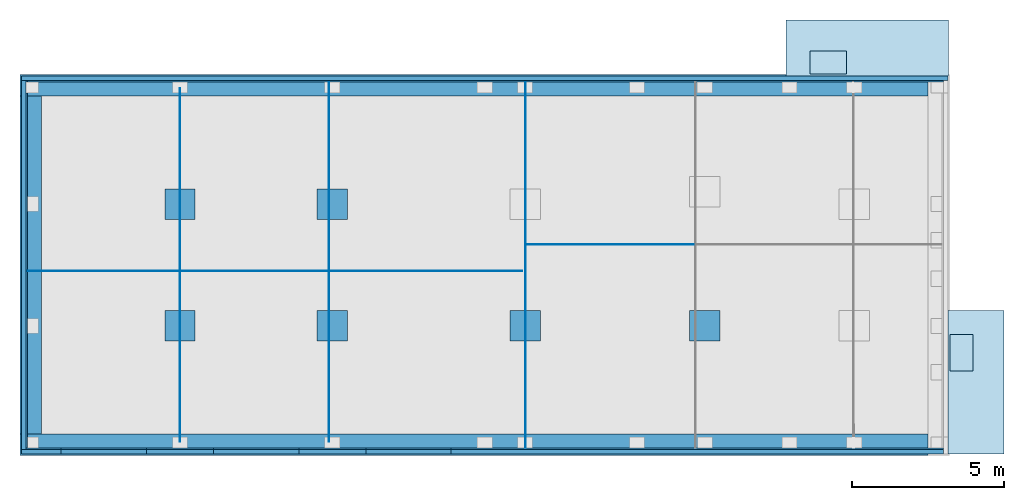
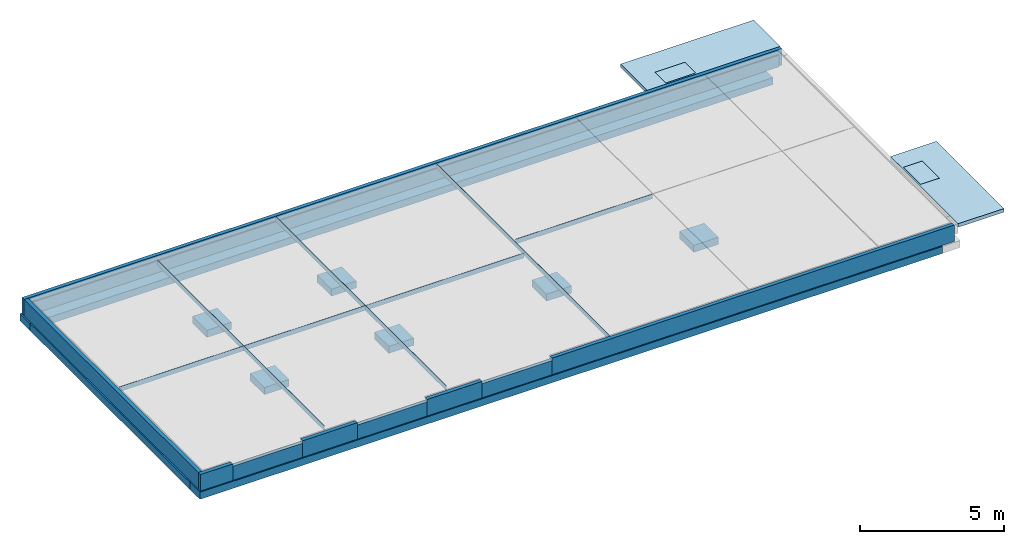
# One storey, part 1 of 3: 25 walls, 4 slabs, 2 openings.
"""IFC2X3 building model written with IfcOpenShell, lengths in millimetres."""

from ifc_helpers import new_model, entity, si_unit, converted_unit, frame, frame_2d, origin, origin_with_axes, place, context, subcontext, project, spatial, polyline, rectangle, outline, extrude, clip, bounded_halfspace, material, layer, layer_set, layer_usage, element, save


model = new_model("IFC2X3")

# Units and contexts
model_context = context("Model", 3, precision=1e-05, world=origin())
plan_context = context("Plan", 3, precision=1e-05, world=origin())
body_context = subcontext(model_context, "Body", "Model", "MODEL_VIEW")
ifc_project = project(units=[si_unit("LENGTHUNIT", "METRE", prefix="MILLI"), converted_unit("PLANEANGLEUNIT", "DEGREE", entity("IfcPlaneAngleMeasure", 0.0174532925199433), si_unit("PLANEANGLEUNIT", "RADIAN"), dimensions=[0, 0, 0, 0, 0, 0, 0]), si_unit("AREAUNIT", "SQUARE_METRE"), si_unit("VOLUMEUNIT", "CUBIC_METRE")], contexts=[model_context, plan_context])

# Building, storey
building_placement = place(None, origin())
building = spatial("IfcBuilding", under=ifc_project, at=building_placement, Name="HEKF Administrasjonbygg", CompositionType="ELEMENT")
storey_placement = place(building_placement, frame((0.0, 0.0, 6300.0), z_axis=(0.0, 0.0, 1.0), x_axis=(1.0, 0.0, 0.0)))
storey = spatial("IfcBuildingStorey", under=building, at=storey_placement, Name="Konstruksjoner i grunnen", CompositionType="ELEMENT", Elevation=6300.0)

# Slab, opening
ifc_material_1 = material(Name="Betong")
ifc_layer_1 = layer(ifc_material_1, 150.0)
ifc_layer_set_1 = layer_set([ifc_layer_1])
ifc_layer_usage_1 = layer_usage(ifc_layer_set_1, "AXIS3", "POSITIVE", 0.0)
slab_1_placement = place(storey_placement, frame((30200.0, -12200.0, 50.0), z_axis=(0.0, 0.0, 1.0), x_axis=(1.0, 0.0, 0.0)))
slab_1 = element("IfcSlab", 1, at=slab_1_placement, inside=storey, material=ifc_layer_usage_1, PredefinedType="FLOOR", context=body_context, shape_type="SweptSolid", body=[
    extrude(outline(polyline([(0.0, 0.0), (1840.0, 0.0), (1840.0, 4700.000000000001), (0.0, 4700.000000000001), (0.0, 0.0)]), holes=[polyline([(815.0, 2714.39229740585), (65.0, 2714.39229740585), (65.0, 3914.39229740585), (815.0, 3914.39229740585), (815.0, 2714.39229740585)])]), origin_with_axes(), (0.0, 0.0, 1.0), 150.0),
])
opening_1_placement = place(slab_1_placement, frame((65.0, 2714.39229740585, 0.0), z_axis=(0.0, 0.0, 1.0), x_axis=(1.0, 0.0, 0.0)))
element("IfcOpeningElement", 2, at=opening_1_placement, cuts=slab_1, Name="Slab Opening", ObjectType="Opening", context=body_context, shape_type="SweptSolid", body=[
    extrude(rectangle(XDim=750.0, YDim=1200.0, at=frame_2d((375.0, 600.0), x_axis=(1.0, 0.0))), origin_with_axes(), (0.0, 0.0, 1.0), 150.0),
])

ifc_material_2 = material(Name="Betong")
ifc_layer_2 = layer(ifc_material_2, 150.0)
ifc_layer_set_2 = layer_set([ifc_layer_2])
ifc_layer_usage_2 = layer_usage(ifc_layer_set_2, "AXIS3", "POSITIVE", 0.0)
slab_2_placement = place(storey_placement, frame((24882.90598115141, 199.9999999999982, 50.0), z_axis=(0.0, 0.0, 1.0), x_axis=(1.0, 0.0, 0.0)))
slab_2 = element("IfcSlab", 3, at=slab_2_placement, inside=storey, material=ifc_layer_usage_2, PredefinedType="FLOOR", context=body_context, shape_type="SweptSolid", body=[
    extrude(outline(polyline([(5336.094018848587, 0.0), (5336.094018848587, 1840.0), (0.0, 1840.0), (0.0, 1.13686837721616e-13), (5336.094018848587, 0.0)]), holes=[polyline([(1985.607702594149, 815.0000000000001), (1985.607702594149, 65.00000000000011), (785.6077025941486, 65.00000000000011), (785.6077025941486, 815.0000000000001), (1985.607702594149, 815.0000000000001)])]), origin_with_axes(), (0.0, 0.0, 1.0), 150.0),
])
opening_2_placement = place(slab_2_placement, frame((1985.607702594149, 65.00000000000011, 0.0), z_axis=(0.0, 0.0, 1.0), x_axis=(1.0, 0.0, 0.0)))
element("IfcOpeningElement", 4, at=opening_2_placement, cuts=slab_2, Name="Slab Opening", ObjectType="Opening", context=body_context, shape_type="SweptSolid", body=[
    extrude(rectangle(XDim=750.0, YDim=1200.0, at=frame_2d((-600.0, 375.0), x_axis=(0.0, 1.0))), origin_with_axes(), (0.0, 0.0, 1.0), 150.0),
])

# Slabs
ifc_material_3 = material(Name="Skraperist")
ifc_layer_3 = layer(ifc_material_3, 50.0)
ifc_layer_set_3 = layer_set([ifc_layer_3])
ifc_layer_usage_3 = layer_usage(ifc_layer_set_3, "AXIS3", "POSITIVE", 0.0)
slab_3_placement = place(storey_placement, frame((30265.0, -9485.607702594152, 150.0), z_axis=(0.0, 0.0, 1.0), x_axis=(1.0, 0.0, 0.0)))
element("IfcSlab", 5, at=slab_3_placement, inside=storey, material=ifc_layer_usage_3, PredefinedType="FLOOR", context=body_context, shape_type="SweptSolid", body=[
    extrude(rectangle(XDim=750.0, YDim=1200.0, at=frame_2d((375.0, 600.0), x_axis=(1.0, 0.0))), origin_with_axes(), (0.0, 0.0, 1.0), 50.0),
])
ifc_material_4 = material(Name="Skraperist")
ifc_layer_4 = layer(ifc_material_4, 50.0)
ifc_layer_set_4 = layer_set([ifc_layer_4])
ifc_layer_usage_4 = layer_usage(ifc_layer_set_4, "AXIS3", "POSITIVE", 0.0)
slab_4_placement = place(storey_placement, frame((26868.51368374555, 264.9999999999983, 150.0), z_axis=(0.0, 0.0, 1.0), x_axis=(1.0, 0.0, 0.0)))
element("IfcSlab", 6, at=slab_4_placement, inside=storey, material=ifc_layer_usage_4, PredefinedType="FLOOR", context=body_context, shape_type="SweptSolid", body=[
    extrude(rectangle(XDim=750.0, YDim=1200.0, at=frame_2d((-600.0, 375.0), x_axis=(0.0, 1.0))), origin_with_axes(), (0.0, 0.0, 1.0), 50.0),
])

# Walls
ifc_material_5 = material(Name="Rissanviser")
ifc_layer_5 = layer(ifc_material_5, 15.0)
ifc_layer_set_5 = layer_set([ifc_layer_5])
ifc_layer_usage_5 = layer_usage(ifc_layer_set_5, "AXIS2", "POSITIVE", -7.5)
wall_1_placement = place(storey_placement, frame((4999.999999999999, -200.0, 0.0), z_axis=(0.0, 0.0, 1.0), x_axis=(7.840471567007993e-17, -1.0, 0.0)))
element("IfcWallStandardCase", 7, at=wall_1_placement, inside=storey, material=ifc_layer_usage_5, context=body_context, shape_type="SweptSolid", body=[
    extrude(rectangle(XDim=11600.00000000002, YDim=15.0, at=frame_2d((5800.000000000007, 7.5), x_axis=(1.0, 0.0))), origin_with_axes(), (0.0, 0.0, 1.0), 200.0),
])
ifc_material_6 = material(Name="Rissanviser")
ifc_layer_6 = layer(ifc_material_6, 15.0)
ifc_layer_set_6 = layer_set([ifc_layer_6])
ifc_layer_usage_6 = layer_usage(ifc_layer_set_6, "AXIS2", "POSITIVE", -7.5)
wall_2_placement = place(storey_placement, frame((16323.6597783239, 0.0, 0.0), z_axis=(0.0, 0.0, 1.0), x_axis=(0.0, -1.0, 0.0)))
element("IfcWallStandardCase", 8, at=wall_2_placement, inside=storey, material=ifc_layer_usage_6, context=body_context, shape_type="SweptSolid", body=[
    extrude(rectangle(XDim=12000.0, YDim=15.0, at=frame_2d((6000.0, 7.5), x_axis=(1.0, 0.0))), origin_with_axes(), (0.0, 0.0, 1.0), 200.0),
])
ifc_material_7 = material(Name="Rissanviser")
ifc_layer_7 = layer(ifc_material_7, 22.63791763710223)
ifc_layer_set_7 = layer_set([ifc_layer_7])
ifc_layer_usage_7 = layer_usage(ifc_layer_set_7, "AXIS2", "POSITIVE", -7.5)
wall_3_placement = place(storey_placement, frame((9883.722963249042, 2.273736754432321e-13, 0.0), z_axis=(0.0, 0.0, 1.0), x_axis=(-0.0006469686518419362, -0.9999997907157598, 0.0)))
element("IfcWallStandardCase", 9, at=wall_3_placement, inside=storey, material=ifc_layer_usage_7, context=body_context, shape_type="SweptSolid", body=[
    extrude(outline(polyline([(0.0, 0.0), (6182.679776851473, 0.0), (6199.679772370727, 0.01242499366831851), (11805.70210955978, 7.637920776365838), (11805.69240503, 22.63791763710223), (6197.670069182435, 15.00970139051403), (6182.670072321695, 14.9999968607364), (-0.009704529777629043, 14.9999968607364), (0.0, 0.0)])), origin_with_axes(), (0.0, 0.0, 1.0), 200.0),
])
ifc_material_8 = material(Name="Rissanviser")
ifc_layer_8 = layer(ifc_material_8, 15.00000000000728)
ifc_layer_set_8 = layer_set([ifc_layer_8])
ifc_layer_usage_8 = layer_usage(ifc_layer_set_8, "AXIS2", "POSITIVE", -7.5)
wall_4_placement = place(storey_placement, frame((1.091393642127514e-11, -6199.678482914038, 0.0), z_axis=(0.0, 0.0, 1.0), x_axis=(1.0, 0.0, 0.0)))
element("IfcWallStandardCase", 10, at=wall_4_placement, inside=storey, material=ifc_layer_usage_8, context=body_context, shape_type="SweptSolid", body=[
    extrude(outline(polyline([(9894.724389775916, 0.0), (16236.99999999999, 0.0), (16236.99999999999, 15.00000000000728), (9894.72296324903, 15.00000000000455), (9894.724389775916, 0.0)])), origin_with_axes(), (0.0, 0.0, 1.0), 200.0),
])
ifc_material_9 = material(Name="Rissanviser")
ifc_layer_9 = layer(ifc_material_9, 15.00000000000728)
ifc_layer_set_9 = layer_set([ifc_layer_9])
ifc_layer_usage_9 = layer_usage(ifc_layer_set_9, "AXIS2", "POSITIVE", -7.5)
wall_5_placement = place(storey_placement, frame((1.091393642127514e-11, -6199.678482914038, 0.0), z_axis=(0.0, 0.0, 1.0), x_axis=(1.0, 0.0, 0.0)))
element("IfcWallStandardCase", 11, at=wall_5_placement, inside=storey, material=ifc_layer_usage_9, context=body_context, shape_type="SweptSolid", body=[
    extrude(outline(polyline([(0.0, 0.0), (4999.999999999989, 0.0), (4999.999999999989, 15.00000000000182), (0.0, 15.0), (0.0, 0.0)])), origin_with_axes(), (0.0, 0.0, 1.0), 200.0),
])
ifc_material_10 = material(Name="Rissanviser")
ifc_layer_10 = layer(ifc_material_10, 15.00000000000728)
ifc_layer_set_10 = layer_set([ifc_layer_10])
ifc_layer_usage_10 = layer_usage(ifc_layer_set_10, "AXIS2", "POSITIVE", -7.5)
wall_6_placement = place(storey_placement, frame((1.091393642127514e-11, -6199.678482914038, 0.0), z_axis=(0.0, 0.0, 1.0), x_axis=(1.0, 0.0, 0.0)))
element("IfcWallStandardCase", 12, at=wall_6_placement, inside=storey, material=ifc_layer_usage_10, context=body_context, shape_type="SweptSolid", body=[
    extrude(outline(polyline([(9879.72296324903, 15.00000000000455), (5014.999999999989, 15.00000000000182), (5014.999999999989, 0.0), (9879.724389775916, 0.0), (9879.72296324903, 15.00000000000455)])), origin_with_axes(), (0.0, 0.0, 1.0), 200.0),
])
ifc_material_11 = material(Name="Rissanviser")
ifc_layer_11 = layer(ifc_material_11, 15.00000000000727)
ifc_layer_set_11 = layer_set([ifc_layer_11])
ifc_layer_usage_11 = layer_usage(ifc_layer_set_11, "AXIS2", "POSITIVE", -7.5)
wall_7_placement = place(storey_placement, frame((16413.0, -5332.0, 0.0), z_axis=(0.0, 0.0, 1.0), x_axis=(0.9999999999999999, 0.0, 0.0)))
element("IfcWallStandardCase", 13, at=wall_7_placement, inside=storey, material=ifc_layer_usage_11, context=body_context, shape_type="SweptSolid", body=[
    extrude(outline(polyline([(0.0, 0.0), (5496.929968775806, 0.0), (5496.92637380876, 15.00000000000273), (0.0, 15.0), (0.0, 0.0)])), origin_with_axes(), (0.0, 0.0, 1.0), 200.0),
])
ifc_material_12 = material(Name="Betong")
ifc_layer_12 = layer(ifc_material_12, 700.0000000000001)
ifc_layer_set_12 = layer_set([ifc_layer_12])
ifc_layer_usage_12 = layer_usage(ifc_layer_set_12, "AXIS2", "POSITIVE", 0.0)
wall_8_placement = place(storey_placement, frame((29549.99999999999, 250.0, -800.0), z_axis=(0.0, 0.0, 1.0), x_axis=(-1.0, 0.0, 0.0)))
element("IfcWallStandardCase", 14, at=wall_8_placement, inside=storey, material=ifc_layer_usage_12, context=body_context, shape_type="SweptSolid", body=[
    extrude(rectangle(XDim=29799.99999999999, YDim=700.0000000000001, at=frame_2d((14900.0, 350.0000000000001), x_axis=(1.0, 0.0))), origin_with_axes(), (0.0, 0.0, 1.0), 300.0),
])
ifc_material_13 = material(Name="Betong")
ifc_layer_13 = layer(ifc_material_13, 700.0)
ifc_layer_set_13 = layer_set([ifc_layer_13])
ifc_layer_usage_13 = layer_usage(ifc_layer_set_13, "AXIS2", "POSITIVE", 0.0)
wall_9_placement = place(storey_placement, frame((-249.9999999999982, -450.0000000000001, -800.0), z_axis=(0.0, 0.0, 1.0), x_axis=(0.0, -1.0, 0.0)))
element("IfcWallStandardCase", 15, at=wall_9_placement, inside=storey, material=ifc_layer_usage_13, context=body_context, shape_type="SweptSolid", body=[
    extrude(rectangle(XDim=11100.0, YDim=700.0, at=frame_2d((5550.0, 350.0), x_axis=(1.0, 0.0))), origin_with_axes(), (0.0, 0.0, 1.0), 300.0),
])
ifc_material_14 = material(Name="Betong")
ifc_layer_14 = layer(ifc_material_14, 700.0)
ifc_layer_set_14 = layer_set([ifc_layer_14])
ifc_layer_usage_14 = layer_usage(ifc_layer_set_14, "AXIS2", "POSITIVE", 0.0)
wall_10_placement = place(storey_placement, frame((-249.9999999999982, -12250.0, -800.0), z_axis=(0.0, 0.0, 1.0), x_axis=(1.0, 0.0, 0.0)))
element("IfcWallStandardCase", 16, at=wall_10_placement, inside=storey, material=ifc_layer_usage_14, context=body_context, shape_type="SweptSolid", body=[
    extrude(rectangle(XDim=29799.99999999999, YDim=700.0, at=frame_2d((14900.0, 350.0), x_axis=(1.0, 0.0))), origin_with_axes(), (0.0, 0.0, 1.0), 300.0),
])
ifc_material_15 = material(Name="Betong")
ifc_layer_15 = layer(ifc_material_15, 1000.0)
ifc_layer_set_15 = layer_set([ifc_layer_15])
ifc_layer_usage_15 = layer_usage(ifc_layer_set_15, "AXIS2", "POSITIVE", 0.0)
wall_11_placement = place(storey_placement, frame((9500.0, -7500.0, -300.0), z_axis=(0.0, 0.0, 1.0), x_axis=(0.0, -1.0, 0.0)))
element("IfcWallStandardCase", 17, at=wall_11_placement, inside=storey, material=ifc_layer_usage_15, context=body_context, shape_type="SweptSolid", body=[
    extrude(rectangle(XDim=1000.0, YDim=1000.0, at=frame_2d((500.0, 500.0), x_axis=(1.0, 0.0))), origin_with_axes(), (0.0, 0.0, 1.0), 300.0),
])
ifc_material_16 = material(Name="Betong")
ifc_layer_16 = layer(ifc_material_16, 1000.0)
ifc_layer_set_16 = layer_set([ifc_layer_16])
ifc_layer_usage_16 = layer_usage(ifc_layer_set_16, "AXIS2", "POSITIVE", 0.0)
wall_12_placement = place(storey_placement, frame((9500.0, -3500.0, -300.0), z_axis=(0.0, 0.0, 1.0), x_axis=(0.0, -1.0, 0.0)))
element("IfcWallStandardCase", 18, at=wall_12_placement, inside=storey, material=ifc_layer_usage_16, context=body_context, shape_type="SweptSolid", body=[
    extrude(rectangle(XDim=1000.0, YDim=1000.0, at=frame_2d((500.0, 500.0), x_axis=(1.0, 0.0))), origin_with_axes(), (0.0, 0.0, 1.0), 300.0),
])
ifc_material_17 = material(Name="Betong")
ifc_layer_17 = layer(ifc_material_17, 1000.0)
ifc_layer_set_17 = layer_set([ifc_layer_17])
ifc_layer_usage_17 = layer_usage(ifc_layer_set_17, "AXIS2", "POSITIVE", 0.0)
wall_13_placement = place(storey_placement, frame((15825.0, -7499.999999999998, -300.0), z_axis=(0.0, 0.0, 1.0), x_axis=(0.0, -1.0, 0.0)))
element("IfcWallStandardCase", 19, at=wall_13_placement, inside=storey, material=ifc_layer_usage_17, context=body_context, shape_type="SweptSolid", body=[
    extrude(rectangle(XDim=1000.0, YDim=1000.0, at=frame_2d((500.0, 500.0), x_axis=(1.0, 0.0))), origin_with_axes(), (0.0, 0.0, 1.0), 300.0),
])
ifc_material_18 = material(Name="Betong")
ifc_layer_18 = layer(ifc_material_18, 1000.0)
ifc_layer_set_18 = layer_set([ifc_layer_18])
ifc_layer_usage_18 = layer_usage(ifc_layer_set_18, "AXIS2", "POSITIVE", 0.0)
wall_14_placement = place(storey_placement, frame((21725.26840322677, -7499.999999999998, -300.0), z_axis=(0.0, 0.0, 1.0), x_axis=(0.0, -1.0, 0.0)))
element("IfcWallStandardCase", 20, at=wall_14_placement, inside=storey, material=ifc_layer_usage_18, context=body_context, shape_type="SweptSolid", body=[
    extrude(rectangle(XDim=1000.0, YDim=1000.0, at=frame_2d((500.0, 500.0), x_axis=(1.0, 0.0))), origin_with_axes(), (0.0, 0.0, 1.0), 300.0),
])
ifc_material_19 = material(Name="Betong")
ifc_layer_19 = layer(ifc_material_19, 1000.0)
ifc_layer_set_19 = layer_set([ifc_layer_19])
ifc_layer_usage_19 = layer_usage(ifc_layer_set_19, "AXIS2", "POSITIVE", 0.0)
wall_15_placement = place(storey_placement, frame((4500.0, -7499.999999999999, -300.0), z_axis=(0.0, 0.0, 1.0), x_axis=(0.0, -1.0, 0.0)))
element("IfcWallStandardCase", 21, at=wall_15_placement, inside=storey, material=ifc_layer_usage_19, context=body_context, shape_type="SweptSolid", body=[
    extrude(rectangle(XDim=1000.000000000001, YDim=1000.0, at=frame_2d((500.0000000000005, 500.0), x_axis=(1.0, 0.0))), origin_with_axes(), (0.0, 0.0, 1.0), 300.0),
])
ifc_material_20 = material(Name="Betong")
ifc_layer_20 = layer(ifc_material_20, 1000.0)
ifc_layer_set_20 = layer_set([ifc_layer_20])
ifc_layer_usage_20 = layer_usage(ifc_layer_set_20, "AXIS2", "POSITIVE", 0.0)
wall_16_placement = place(storey_placement, frame((4500.0, -3499.999999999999, -300.0), z_axis=(0.0, 0.0, 1.0), x_axis=(0.0, -1.0, 0.0)))
element("IfcWallStandardCase", 22, at=wall_16_placement, inside=storey, material=ifc_layer_usage_20, context=body_context, shape_type="SweptSolid", body=[
    extrude(rectangle(XDim=1000.0, YDim=1000.0, at=frame_2d((500.0, 500.0), x_axis=(1.0, 0.0))), origin_with_axes(), (0.0, 0.0, 1.0), 300.0),
])
ifc_material_21 = material(Name="Betong")
ifc_layer_21 = layer(ifc_material_21, 50.00000000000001)
ifc_material_22 = material(Name="Betong")
ifc_layer_22 = layer(ifc_material_22, 150.0)
ifc_layer_set_21 = layer_set([ifc_layer_21, ifc_layer_22])
ifc_layer_usage_21 = layer_usage(ifc_layer_set_21, "AXIS2", "POSITIVE", 0.0)
wall_17_placement = place(storey_placement, frame((1.371347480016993e-12, -12000.0, -500.0), z_axis=(0.0, 0.0, 1.0), x_axis=(1.886918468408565e-16, 1.0, 0.0)))
element("IfcWallStandardCase", 23, at=wall_17_placement, inside=storey, material=ifc_layer_usage_21, context=body_context, shape_type="Clipping", body=[
    clip(clip(clip(extrude(outline(polyline([(-50.00000000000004, 200.0), (-50.00000000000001, 50.0), (-9.434592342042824e-15, 50.0), (0.0, 0.0), (11650.0, 4.03896783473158e-28), (11650.0, 49.99999999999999), (12000.0, 50.0), (12000.0, 0.0), (12050.0, 0.0), (12050.0, 200.0), (-50.00000000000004, 200.0)])), origin_with_axes(), (0.0, 0.0, 1.0), 700.0), bounded_halfspace(frame((0.0, 0.0, 500.0), z_axis=(0.0, 0.0, -1.0), x_axis=(1.0, 2.465190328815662e-32, 0.0)), True, origin(), polyline([(0.0, 0.0), (11650.0, 4.03896783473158e-28), (11650.0, 49.99999999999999), (-9.434592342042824e-15, 50.0), (0.0, 0.0)]))), bounded_halfspace(frame((12050.0, 0.0, 500.0), z_axis=(0.0, 0.0, -1.0), x_axis=(-4.658329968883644e-17, 1.0, 0.0)), True, origin(), polyline([(12050.0, 0.0), (12050.0, 50.0), (12000.0, 50.0), (12000.0, 0.0), (12050.0, 0.0)]))), bounded_halfspace(frame((-50.00000000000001, 50.0, 700.0), z_axis=(0.0, 0.0, -1.0), x_axis=(1.0, 1.924929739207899e-19, 0.0)), True, origin(), polyline([(-50.00000000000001, 50.0), (12050.0, 50.0), (12050.0, 200.0), (-50.00000000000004, 200.0), (-50.00000000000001, 50.0)]))),
])
ifc_material_23 = material(Name="Betong")
ifc_layer_23 = layer(ifc_material_23, 150.0)
ifc_material_24 = material(Name="Betong")
ifc_layer_24 = layer(ifc_material_24, 50.0)
ifc_layer_set_22 = layer_set([ifc_layer_23, ifc_layer_24])
ifc_layer_usage_22 = layer_usage(ifc_layer_set_22, "AXIS2", "POSITIVE", 0.0)
wall_18_placement = place(storey_placement, frame((1100.0, -12200.0, -500.0), z_axis=(0.0, 0.0, 1.0), x_axis=(1.0, 0.0, 0.0)))
element("IfcWallStandardCase", 24, at=wall_18_placement, inside=storey, material=ifc_layer_usage_22, context=body_context, shape_type="Clipping", body=[
    clip(clip(extrude(rectangle(XDim=2800.0, YDim=200.0, at=frame_2d((1400.0, 100.0), x_axis=(1.0, 0.0))), origin_with_axes(), (0.0, 0.0, 1.0), 600.0), bounded_halfspace(frame((0.0, 0.0, 600.0), z_axis=(0.0, 0.0, -1.0), x_axis=(1.0, 0.0, 0.0)), True, origin(), polyline([(0.0, 0.0), (2800.0, 0.0), (2800.0, 150.0), (0.0, 150.0), (0.0, 0.0)]))), bounded_halfspace(frame((0.0, 150.0, 500.0), z_axis=(0.0, 0.0, -1.0), x_axis=(1.0, 0.0, 0.0)), True, origin(), polyline([(0.0, 150.0), (2800.0, 150.0), (2800.0, 200.0), (0.0, 200.0), (0.0, 150.0)]))),
])
ifc_material_25 = material(Name="Betong")
ifc_layer_25 = layer(ifc_material_25, 150.0)
ifc_material_26 = material(Name="Betong")
ifc_layer_26 = layer(ifc_material_26, 50.0)
ifc_layer_set_23 = layer_set([ifc_layer_25, ifc_layer_26])
ifc_layer_usage_23 = layer_usage(ifc_layer_set_23, "AXIS2", "POSITIVE", 0.0)
wall_19_placement = place(storey_placement, frame((6099.999999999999, -12200.0, -500.0), z_axis=(0.0, 0.0, 1.0), x_axis=(1.0, 0.0, 0.0)))
element("IfcWallStandardCase", 25, at=wall_19_placement, inside=storey, material=ifc_layer_usage_23, context=body_context, shape_type="Clipping", body=[
    clip(clip(extrude(rectangle(XDim=2800.000000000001, YDim=200.0, at=frame_2d((1400.000000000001, 100.0), x_axis=(1.0, 0.0))), origin_with_axes(), (0.0, 0.0, 1.0), 600.0), bounded_halfspace(frame((0.0, 0.0, 600.0), z_axis=(0.0, 0.0, -1.0), x_axis=(1.0, 0.0, 0.0)), True, origin(), polyline([(0.0, 0.0), (2800.000000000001, 0.0), (2800.000000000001, 150.0), (0.0, 150.0), (0.0, 0.0)]))), bounded_halfspace(frame((0.0, 150.0, 500.0), z_axis=(0.0, 0.0, -1.0), x_axis=(1.0, 0.0, 0.0)), True, origin(), polyline([(0.0, 150.0), (2800.000000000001, 150.0), (2800.000000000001, 200.0), (0.0, 200.0), (0.0, 150.0)]))),
])
ifc_material_27 = material(Name="Betong")
ifc_layer_27 = layer(ifc_material_27, 150.0)
ifc_material_28 = material(Name="Betong")
ifc_layer_28 = layer(ifc_material_28, 50.0)
ifc_layer_set_24 = layer_set([ifc_layer_27, ifc_layer_28])
ifc_layer_usage_24 = layer_usage(ifc_layer_set_24, "AXIS2", "POSITIVE", 0.0)
wall_20_placement = place(storey_placement, frame((11100.0, -12200.0, -500.0), z_axis=(0.0, 0.0, 1.0), x_axis=(1.0, 0.0, 0.0)))
element("IfcWallStandardCase", 26, at=wall_20_placement, inside=storey, material=ifc_layer_usage_24, context=body_context, shape_type="Clipping", body=[
    clip(clip(extrude(rectangle(XDim=2800.0, YDim=200.0, at=frame_2d((1400.0, 100.0), x_axis=(1.0, 0.0))), origin_with_axes(), (0.0, 0.0, 1.0), 600.0), bounded_halfspace(frame((0.0, 0.0, 600.0), z_axis=(0.0, 0.0, -1.0), x_axis=(1.0, 0.0, 0.0)), True, origin(), polyline([(0.0, 0.0), (2800.0, 0.0), (2800.0, 150.0), (0.0, 150.0), (0.0, 0.0)]))), bounded_halfspace(frame((0.0, 150.0, 500.0), z_axis=(0.0, 0.0, -1.0), x_axis=(1.0, 0.0, 0.0)), True, origin(), polyline([(0.0, 150.0), (2800.0, 150.0), (2800.0, 200.0), (0.0, 200.0), (0.0, 150.0)]))),
])
ifc_material_29 = material(Name="Betong")
ifc_layer_29 = layer(ifc_material_29, 150.0)
ifc_material_30 = material(Name="Betong")
ifc_layer_30 = layer(ifc_material_30, 50.0)
ifc_layer_set_25 = layer_set([ifc_layer_29, ifc_layer_30])
ifc_layer_usage_25 = layer_usage(ifc_layer_set_25, "AXIS2", "POSITIVE", 0.0)
wall_21_placement = place(storey_placement, frame((-199.9999999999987, -12200.0, -500.0), z_axis=(0.0, 0.0, 1.0), x_axis=(1.0, 0.0, 0.0)))
element("IfcWallStandardCase", 27, at=wall_21_placement, inside=storey, material=ifc_layer_usage_25, context=body_context, shape_type="Clipping", body=[
    clip(clip(clip(clip(clip(clip(clip(clip(extrude(outline(polyline([(30250.0, 200.0), (14100.0, 200.0), (14100.0, 0.0), (30250.0, 0.0), (30250.0, 200.0)])), origin_with_axes(), (0.0, 0.0, 1.0), 700.0), bounded_halfspace(frame((14100.0, 0.0, 700.0), z_axis=(0.0, 0.0, -1.0), x_axis=(1.0, 0.0, 0.0)), True, origin(), polyline([(14100.0, 0.0), (30250.0, 0.0), (30250.0, 150.0), (14100.0, 150.0), (14100.0, 0.0)]))), bounded_halfspace(frame((4099.999999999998, 150.0, 700.0), z_axis=(0.0, 0.0, -1.0), x_axis=(0.0, -1.0, 0.0)), True, origin(), polyline([(4099.999999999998, 150.0), (4099.999999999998, 0.0), (6299.999999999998, 0.0), (6299.999999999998, 150.0), (4099.999999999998, 150.0)]))), bounded_halfspace(frame((11300.0, 0.0, 700.0), z_axis=(0.0, 0.0, -1.0), x_axis=(0.0, 1.0, 0.0)), True, origin(), polyline([(11300.0, 0.0), (11300.0, 150.0), (9099.999999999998, 150.0), (9099.999999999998, 0.0), (11300.0, 0.0)]))), bounded_halfspace(frame((1299.999999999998, 150.0, 700.0), z_axis=(0.0, 0.0, -1.0), x_axis=(-1.0, 0.0, 0.0)), True, origin(), polyline([(1299.999999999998, 150.0), (2.842170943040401e-14, 150.0), (0.0, 0.0), (1299.999999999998, 0.0), (1299.999999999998, 150.0)]))), bounded_halfspace(frame((14100.0, 150.0, 500.0), z_axis=(0.0, 0.0, -1.0), x_axis=(1.0, 0.0, 0.0)), True, origin(), polyline([(14100.0, 150.0), (30250.0, 150.0), (30250.0, 200.0), (14100.0, 200.0), (14100.0, 150.0)]))), bounded_halfspace(frame((11300.0, 200.0, 500.0), z_axis=(0.0, 0.0, -1.0), x_axis=(-1.0, 0.0, 0.0)), True, origin(), polyline([(11300.0, 200.0), (9099.999999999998, 200.0), (9099.999999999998, 150.0), (11300.0, 150.0), (11300.0, 200.0)]))), bounded_halfspace(frame((4099.999999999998, 150.0, 500.0), z_axis=(0.0, 0.0, -1.0), x_axis=(1.0, 0.0, 0.0)), True, origin(), polyline([(4099.999999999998, 150.0), (6299.999999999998, 150.0), (6299.999999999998, 200.0), (4099.999999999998, 200.0), (4099.999999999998, 150.0)]))), bounded_halfspace(frame((150.0, 200.0, 500.0), z_axis=(0.0, 0.0, -1.0), x_axis=(-1.4210854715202e-16, -1.0, 0.0)), True, origin(), polyline([(150.0, 200.0), (150.0, 150.0), (1299.999999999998, 150.0), (1299.999999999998, 200.0), (150.0, 200.0)]))),
])
ifc_material_31 = material(Name="Betong")
ifc_layer_31 = layer(ifc_material_31, 150.0)
ifc_material_32 = material(Name="Betong")
ifc_layer_32 = layer(ifc_material_32, 50.0)
ifc_layer_set_26 = layer_set([ifc_layer_31, ifc_layer_32])
ifc_layer_usage_26 = layer_usage(ifc_layer_set_26, "AXIS2", "POSITIVE", 0.0)
wall_22_placement = place(storey_placement, frame((-199.9999999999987, -12200.0, -500.0), z_axis=(0.0, 0.0, 1.0), x_axis=(1.0, 0.0, 0.0)))
element("IfcWallStandardCase", 28, at=wall_22_placement, inside=storey, material=ifc_layer_usage_26, context=body_context, shape_type="Clipping", body=[
    clip(clip(clip(clip(clip(clip(clip(clip(extrude(outline(polyline([(6299.999999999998, 200.0), (4099.999999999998, 200.0), (4099.999999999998, 0.0), (6299.999999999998, 0.0), (6299.999999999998, 200.0)])), origin_with_axes(), (0.0, 0.0, 1.0), 700.0), bounded_halfspace(frame((14100.0, 0.0, 700.0), z_axis=(0.0, 0.0, -1.0), x_axis=(1.0, 0.0, 0.0)), True, origin(), polyline([(14100.0, 0.0), (30250.0, 0.0), (30250.0, 150.0), (14100.0, 150.0), (14100.0, 0.0)]))), bounded_halfspace(frame((4099.999999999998, 150.0, 700.0), z_axis=(0.0, 0.0, -1.0), x_axis=(0.0, -1.0, 0.0)), True, origin(), polyline([(4099.999999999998, 150.0), (4099.999999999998, 0.0), (6299.999999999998, 0.0), (6299.999999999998, 150.0), (4099.999999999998, 150.0)]))), bounded_halfspace(frame((11300.0, 0.0, 700.0), z_axis=(0.0, 0.0, -1.0), x_axis=(0.0, 1.0, 0.0)), True, origin(), polyline([(11300.0, 0.0), (11300.0, 150.0), (9099.999999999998, 150.0), (9099.999999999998, 0.0), (11300.0, 0.0)]))), bounded_halfspace(frame((1299.999999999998, 150.0, 700.0), z_axis=(0.0, 0.0, -1.0), x_axis=(-1.0, 0.0, 0.0)), True, origin(), polyline([(1299.999999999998, 150.0), (2.842170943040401e-14, 150.0), (0.0, 0.0), (1299.999999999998, 0.0), (1299.999999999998, 150.0)]))), bounded_halfspace(frame((14100.0, 150.0, 500.0), z_axis=(0.0, 0.0, -1.0), x_axis=(1.0, 0.0, 0.0)), True, origin(), polyline([(14100.0, 150.0), (30250.0, 150.0), (30250.0, 200.0), (14100.0, 200.0), (14100.0, 150.0)]))), bounded_halfspace(frame((11300.0, 200.0, 500.0), z_axis=(0.0, 0.0, -1.0), x_axis=(-1.0, 0.0, 0.0)), True, origin(), polyline([(11300.0, 200.0), (9099.999999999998, 200.0), (9099.999999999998, 150.0), (11300.0, 150.0), (11300.0, 200.0)]))), bounded_halfspace(frame((4099.999999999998, 150.0, 500.0), z_axis=(0.0, 0.0, -1.0), x_axis=(1.0, 0.0, 0.0)), True, origin(), polyline([(4099.999999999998, 150.0), (6299.999999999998, 150.0), (6299.999999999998, 200.0), (4099.999999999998, 200.0), (4099.999999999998, 150.0)]))), bounded_halfspace(frame((150.0, 200.0, 500.0), z_axis=(0.0, 0.0, -1.0), x_axis=(-1.4210854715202e-16, -1.0, 0.0)), True, origin(), polyline([(150.0, 200.0), (150.0, 150.0), (1299.999999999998, 150.0), (1299.999999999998, 200.0), (150.0, 200.0)]))),
])
ifc_material_33 = material(Name="Betong")
ifc_layer_33 = layer(ifc_material_33, 150.0)
ifc_material_34 = material(Name="Betong")
ifc_layer_34 = layer(ifc_material_34, 50.0)
ifc_layer_set_27 = layer_set([ifc_layer_33, ifc_layer_34])
ifc_layer_usage_27 = layer_usage(ifc_layer_set_27, "AXIS2", "POSITIVE", 0.0)
wall_23_placement = place(storey_placement, frame((-199.9999999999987, -12200.0, -500.0), z_axis=(0.0, 0.0, 1.0), x_axis=(1.0, 0.0, 0.0)))
element("IfcWallStandardCase", 29, at=wall_23_placement, inside=storey, material=ifc_layer_usage_27, context=body_context, shape_type="Clipping", body=[
    clip(clip(clip(clip(clip(clip(clip(clip(extrude(outline(polyline([(11300.0, 200.0), (9099.999999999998, 200.0), (9099.999999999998, 0.0), (11300.0, 0.0), (11300.0, 200.0)])), origin_with_axes(), (0.0, 0.0, 1.0), 700.0), bounded_halfspace(frame((14100.0, 0.0, 700.0), z_axis=(0.0, 0.0, -1.0), x_axis=(1.0, 0.0, 0.0)), True, origin(), polyline([(14100.0, 0.0), (30250.0, 0.0), (30250.0, 150.0), (14100.0, 150.0), (14100.0, 0.0)]))), bounded_halfspace(frame((4099.999999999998, 150.0, 700.0), z_axis=(0.0, 0.0, -1.0), x_axis=(0.0, -1.0, 0.0)), True, origin(), polyline([(4099.999999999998, 150.0), (4099.999999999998, 0.0), (6299.999999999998, 0.0), (6299.999999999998, 150.0), (4099.999999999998, 150.0)]))), bounded_halfspace(frame((11300.0, 0.0, 700.0), z_axis=(0.0, 0.0, -1.0), x_axis=(0.0, 1.0, 0.0)), True, origin(), polyline([(11300.0, 0.0), (11300.0, 150.0), (9099.999999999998, 150.0), (9099.999999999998, 0.0), (11300.0, 0.0)]))), bounded_halfspace(frame((1299.999999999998, 150.0, 700.0), z_axis=(0.0, 0.0, -1.0), x_axis=(-1.0, 0.0, 0.0)), True, origin(), polyline([(1299.999999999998, 150.0), (2.842170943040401e-14, 150.0), (0.0, 0.0), (1299.999999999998, 0.0), (1299.999999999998, 150.0)]))), bounded_halfspace(frame((14100.0, 150.0, 500.0), z_axis=(0.0, 0.0, -1.0), x_axis=(1.0, 0.0, 0.0)), True, origin(), polyline([(14100.0, 150.0), (30250.0, 150.0), (30250.0, 200.0), (14100.0, 200.0), (14100.0, 150.0)]))), bounded_halfspace(frame((11300.0, 200.0, 500.0), z_axis=(0.0, 0.0, -1.0), x_axis=(-1.0, 0.0, 0.0)), True, origin(), polyline([(11300.0, 200.0), (9099.999999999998, 200.0), (9099.999999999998, 150.0), (11300.0, 150.0), (11300.0, 200.0)]))), bounded_halfspace(frame((4099.999999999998, 150.0, 500.0), z_axis=(0.0, 0.0, -1.0), x_axis=(1.0, 0.0, 0.0)), True, origin(), polyline([(4099.999999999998, 150.0), (6299.999999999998, 150.0), (6299.999999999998, 200.0), (4099.999999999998, 200.0), (4099.999999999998, 150.0)]))), bounded_halfspace(frame((150.0, 200.0, 500.0), z_axis=(0.0, 0.0, -1.0), x_axis=(-1.4210854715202e-16, -1.0, 0.0)), True, origin(), polyline([(150.0, 200.0), (150.0, 150.0), (1299.999999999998, 150.0), (1299.999999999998, 200.0), (150.0, 200.0)]))),
])
ifc_material_35 = material(Name="Betong")
ifc_layer_35 = layer(ifc_material_35, 150.0)
ifc_material_36 = material(Name="Betong")
ifc_layer_36 = layer(ifc_material_36, 50.0)
ifc_layer_set_28 = layer_set([ifc_layer_35, ifc_layer_36])
ifc_layer_usage_28 = layer_usage(ifc_layer_set_28, "AXIS2", "POSITIVE", 0.0)
wall_24_placement = place(storey_placement, frame((-199.9999999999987, -12200.0, -500.0), z_axis=(0.0, 0.0, 1.0), x_axis=(1.0, 0.0, 0.0)))
element("IfcWallStandardCase", 30, at=wall_24_placement, inside=storey, material=ifc_layer_usage_28, context=body_context, shape_type="Clipping", body=[
    clip(clip(clip(clip(clip(clip(clip(clip(extrude(outline(polyline([(150.0, 200.0), (150.0, 150.0), (2.842170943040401e-14, 150.0), (0.0, 0.0), (1299.999999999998, 0.0), (1299.999999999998, 200.0), (150.0, 200.0)])), origin_with_axes(), (0.0, 0.0, 1.0), 700.0), bounded_halfspace(frame((14100.0, 0.0, 700.0), z_axis=(0.0, 0.0, -1.0), x_axis=(1.0, 0.0, 0.0)), True, origin(), polyline([(14100.0, 0.0), (30250.0, 0.0), (30250.0, 150.0), (14100.0, 150.0), (14100.0, 0.0)]))), bounded_halfspace(frame((4099.999999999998, 150.0, 700.0), z_axis=(0.0, 0.0, -1.0), x_axis=(0.0, -1.0, 0.0)), True, origin(), polyline([(4099.999999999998, 150.0), (4099.999999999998, 0.0), (6299.999999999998, 0.0), (6299.999999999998, 150.0), (4099.999999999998, 150.0)]))), bounded_halfspace(frame((11300.0, 0.0, 700.0), z_axis=(0.0, 0.0, -1.0), x_axis=(0.0, 1.0, 0.0)), True, origin(), polyline([(11300.0, 0.0), (11300.0, 150.0), (9099.999999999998, 150.0), (9099.999999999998, 0.0), (11300.0, 0.0)]))), bounded_halfspace(frame((1299.999999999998, 150.0, 700.0), z_axis=(0.0, 0.0, -1.0), x_axis=(-1.0, 0.0, 0.0)), True, origin(), polyline([(1299.999999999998, 150.0), (2.842170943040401e-14, 150.0), (0.0, 0.0), (1299.999999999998, 0.0), (1299.999999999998, 150.0)]))), bounded_halfspace(frame((14100.0, 150.0, 500.0), z_axis=(0.0, 0.0, -1.0), x_axis=(1.0, 0.0, 0.0)), True, origin(), polyline([(14100.0, 150.0), (30250.0, 150.0), (30250.0, 200.0), (14100.0, 200.0), (14100.0, 150.0)]))), bounded_halfspace(frame((11300.0, 200.0, 500.0), z_axis=(0.0, 0.0, -1.0), x_axis=(-1.0, 0.0, 0.0)), True, origin(), polyline([(11300.0, 200.0), (9099.999999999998, 200.0), (9099.999999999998, 150.0), (11300.0, 150.0), (11300.0, 200.0)]))), bounded_halfspace(frame((4099.999999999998, 150.0, 500.0), z_axis=(0.0, 0.0, -1.0), x_axis=(1.0, 0.0, 0.0)), True, origin(), polyline([(4099.999999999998, 150.0), (6299.999999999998, 150.0), (6299.999999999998, 200.0), (4099.999999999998, 200.0), (4099.999999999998, 150.0)]))), bounded_halfspace(frame((150.0, 200.0, 500.0), z_axis=(0.0, 0.0, -1.0), x_axis=(-1.4210854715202e-16, -1.0, 0.0)), True, origin(), polyline([(150.0, 200.0), (150.0, 150.0), (1299.999999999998, 150.0), (1299.999999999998, 200.0), (150.0, 200.0)]))),
])
ifc_material_37 = material(Name="Betong")
ifc_layer_37 = layer(ifc_material_37, 150.0)
ifc_material_38 = material(Name="Betong")
ifc_layer_38 = layer(ifc_material_38, 50.0)
ifc_layer_set_29 = layer_set([ifc_layer_37, ifc_layer_38])
ifc_layer_usage_29 = layer_usage(ifc_layer_set_29, "AXIS2", "POSITIVE", 0.0)
wall_25_placement = place(storey_placement, frame((30199.99999999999, 200.0, -500.0), z_axis=(0.0, 0.0, 1.0), x_axis=(-1.0, 0.0, 0.0)))
element("IfcWallStandardCase", 31, at=wall_25_placement, inside=storey, material=ifc_layer_usage_29, context=body_context, shape_type="Clipping", body=[
    clip(clip(extrude(outline(polyline([(0.0, 0.0), (30399.99999999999, 0.0), (30399.99999999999, 150.0), (30199.99999999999, 150.0), (30199.99999999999, 200.0), (150.0, 200.0), (150.0, 150.0), (0.0, 150.0), (0.0, 0.0)])), origin_with_axes(), (0.0, 0.0, 1.0), 700.0), bounded_halfspace(frame((0.0, 0.0, 700.0), z_axis=(0.0, 0.0, -1.0), x_axis=(1.0, 0.0, 0.0)), True, origin(), polyline([(0.0, 0.0), (30399.99999999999, 0.0), (30399.99999999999, 150.0), (0.0, 150.0), (0.0, 0.0)]))), bounded_halfspace(frame((150.0, 150.0, 500.0), z_axis=(0.0, 0.0, -1.0), x_axis=(1.0, 0.0, 0.0)), True, origin(), polyline([(150.0, 150.0), (30199.99999999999, 150.0), (30199.99999999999, 200.0), (150.0, 200.0), (150.0, 150.0)]))),
])

save(model, "model.ifc")
